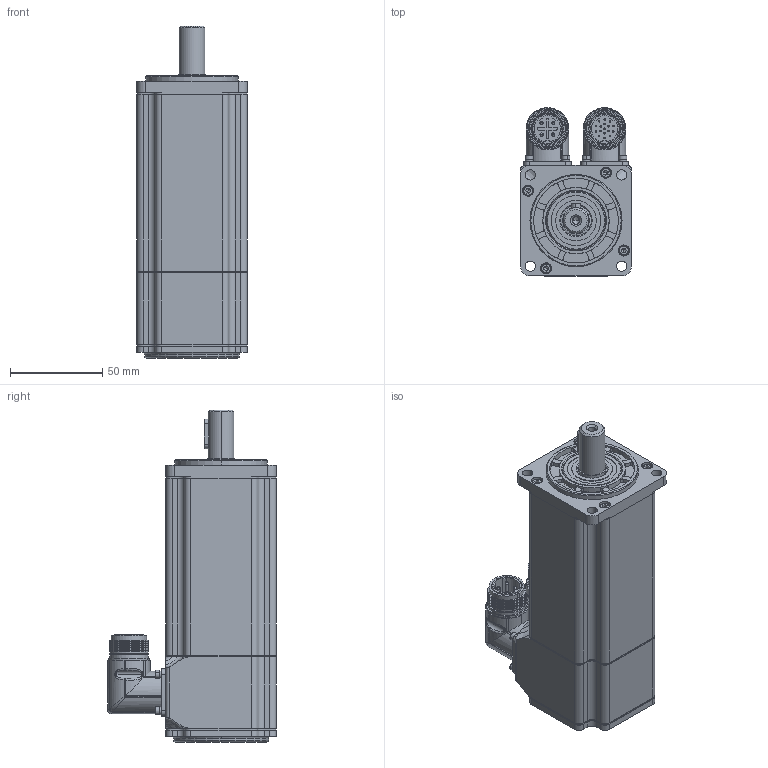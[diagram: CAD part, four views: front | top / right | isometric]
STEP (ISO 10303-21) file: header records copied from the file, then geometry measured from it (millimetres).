
FILE_DESCRIPTION (( 'STEP AP203' ), '1' );
FILE_NAME ('400.STEP', '2014-09-25T07:07:04', ( '微软用户' ), ( '微软中国' ), 'SwSTEP 2.0', 'SolidWorks 2011', '' );
FILE_SCHEMA (( 'CONFIG_CONTROL_DESIGN' ));
Products named in the file (1): 400
Bounding box: 60 x 91.5 x 180.1 mm (x, y, z)
Volume: 179832 mm3; surface area: 125443.8 mm2
Topology: 65 solids, 65 shells, 2305 faces, 5730 edges, 3650 vertices
Faces by surface type: cylinder 1048, plane 918, cone 151, bspline 88, torus 58, sphere 42
Entity records: 73006 total; most frequent: CARTESIAN_POINT 17488, DIRECTION 12103, ORIENTED_EDGE 11172, EDGE_CURVE 5586, AXIS2_PLACEMENT_3D 4651, VERTEX_POINT 3608, VECTOR 2801, LINE 2801
